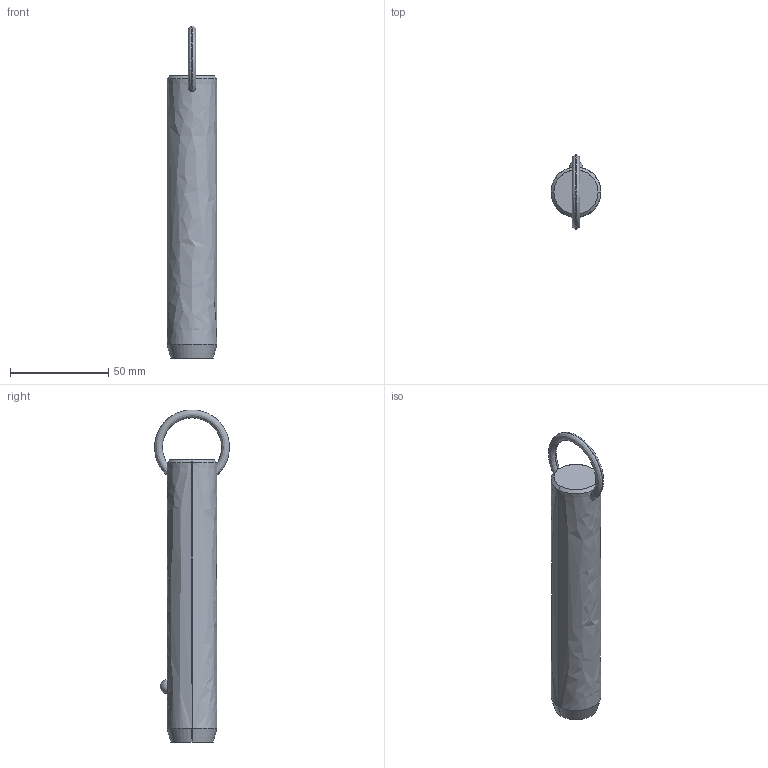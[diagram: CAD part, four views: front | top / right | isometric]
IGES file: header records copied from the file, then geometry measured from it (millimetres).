
Start section: SolidWorks IGES file using analytic representation for surfaces
Global section: file name: C:\Users\liam_\OneDrive\Documents\WORK\Work for WixRoyd\Job Files\J-00019 - Matt Davis CAD Checking\04. CAD Drawings\automotion20190605\P1250.2_v2\P1250.2_v2_20190729_IGES\P1250.100-390.igs; native system: SolidWorks 2017; preprocessor: SolidWorks 2017; author: liam_; date: 190730.173854; units: millimetre
Bounding box: 25.4 x 38.09 x 168.89 mm (x, y, z)
Surface area: 13224.1 mm2 (no closed solid volume)
Topology: 0 solids, 0 shells, 12 faces, 298 edges, 296 vertices
Faces by surface type: revolution 8, bspline 4
